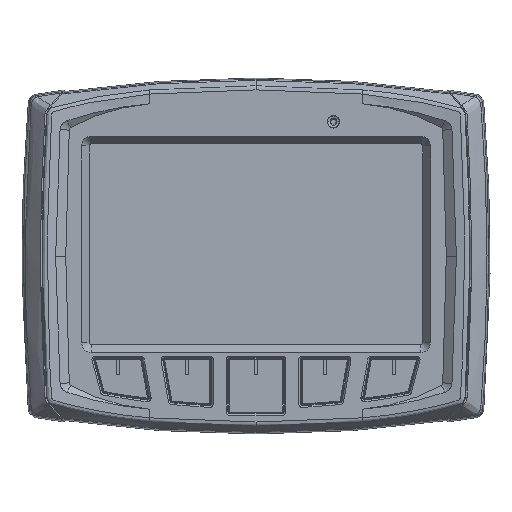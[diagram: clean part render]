
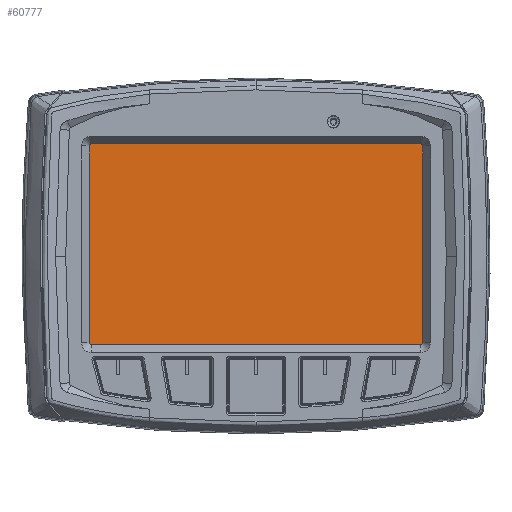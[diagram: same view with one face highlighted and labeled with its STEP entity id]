
A CAD part, top view. The second image highlights one B-rep face of the part: STEP entity #60777.
In plain terms, the highlighted planar face has unit normal (0, 0, 1).
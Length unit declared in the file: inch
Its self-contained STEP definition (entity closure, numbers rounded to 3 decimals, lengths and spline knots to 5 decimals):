
#525 = EDGE_CURVE ( 'NONE', #53312, #87760, #88602, .T. ) ;
#1311 = ORIENTED_EDGE ( 'NONE', *, *, #23275, .T. ) ;
#3836 = EDGE_CURVE ( 'NONE', #17338, #53312, #41814, .T. ) ;
#7562 = EDGE_LOOP ( 'NONE', ( #53335, #74043, #1311, #78226 ) ) ;
#8326 = DIRECTION ( 'NONE',  ( -1., 0., 0. ) ) ;
#9542 = LINE ( 'NONE', #74044, #88531 ) ;
#14127 = VECTOR ( 'NONE', #42197, 39.37008 ) ;
#17338 = VERTEX_POINT ( 'NONE', #26196 ) ;
#23275 = EDGE_CURVE ( 'NONE', #87760, #82921, #9542, .T. ) ;
#26196 = CARTESIAN_POINT ( 'NONE',  ( -3.4535, 2.4816, 0.42311 ) ) ;
#26904 = CARTESIAN_POINT ( 'NONE',  ( 3.34335, -1.91446, 0.42311 ) ) ;
#27988 = PLANE ( 'NONE',  #75804 ) ;
#41218 = CARTESIAN_POINT ( 'NONE',  ( -3.4535, 2.4816, 0.42311 ) ) ;
#41814 = LINE ( 'NONE', #41218, #14127 ) ;
#42197 = DIRECTION ( 'NONE',  ( 0., -1., 0. ) ) ;
#45134 = LINE ( 'NONE', #54289, #47518 ) ;
#47518 = VECTOR ( 'NONE', #8326, 39.37008 ) ;
#50813 = EDGE_CURVE ( 'NONE', #82921, #17338, #45134, .T. ) ;
#51298 = DIRECTION ( 'NONE',  ( 1., 0., 0. ) ) ;
#51312 = DIRECTION ( 'NONE',  ( 0., 1., 0. ) ) ;
#51340 = CARTESIAN_POINT ( 'NONE',  ( -3.4535, -1.91446, 0.42311 ) ) ;
#53312 = VERTEX_POINT ( 'NONE', #98063 ) ;
#53335 = ORIENTED_EDGE ( 'NONE', *, *, #3836, .T. ) ;
#54289 = CARTESIAN_POINT ( 'NONE',  ( -3.4535, 2.4816, 0.42311 ) ) ;
#58274 = CARTESIAN_POINT ( 'NONE',  ( -0.05508, 0.28357, 0.42311 ) ) ;
#60777 = ADVANCED_FACE ( 'NONE', ( #72439 ), #27988, .T. ) ;
#65949 = VECTOR ( 'NONE', #86869, 39.37008 ) ;
#72439 = FACE_OUTER_BOUND ( 'NONE', #7562, .T. ) ;
#74043 = ORIENTED_EDGE ( 'NONE', *, *, #525, .T. ) ;
#74044 = CARTESIAN_POINT ( 'NONE',  ( 3.34335, 2.4816, 0.42311 ) ) ;
#75804 = AXIS2_PLACEMENT_3D ( 'NONE', #58274, #96948, #51298 ) ;
#78226 = ORIENTED_EDGE ( 'NONE', *, *, #50813, .T. ) ;
#82921 = VERTEX_POINT ( 'NONE', #99316 ) ;
#86869 = DIRECTION ( 'NONE',  ( 1., 0., 0. ) ) ;
#87760 = VERTEX_POINT ( 'NONE', #26904 ) ;
#88531 = VECTOR ( 'NONE', #51312, 39.37008 ) ;
#88602 = LINE ( 'NONE', #51340, #65949 ) ;
#96948 = DIRECTION ( 'NONE',  ( 0., 0., 1. ) ) ;
#98063 = CARTESIAN_POINT ( 'NONE',  ( -3.4535, -1.91446, 0.42311 ) ) ;
#99316 = CARTESIAN_POINT ( 'NONE',  ( 3.34335, 2.4816, 0.42311 ) ) ;
